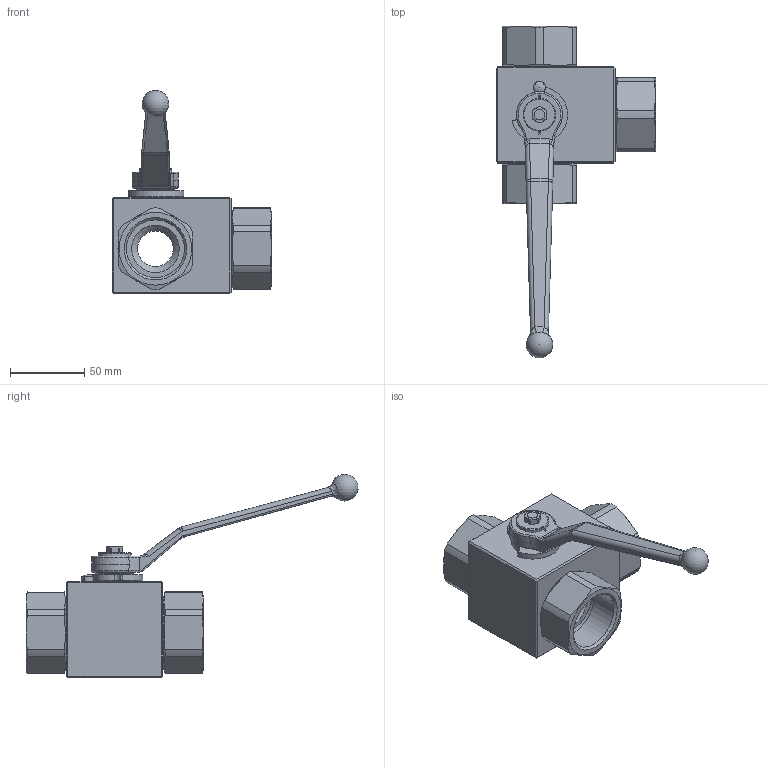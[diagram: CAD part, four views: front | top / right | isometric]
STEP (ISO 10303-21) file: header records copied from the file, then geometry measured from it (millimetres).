
FILE_DESCRIPTION( ( 'Unknown' ), '1' );
FILE_NAME( 'H:/PISTER/3D-MODELLE/BK3-Edelstahl stp/BK3-Edelst DN25 G5_4.stp', 'Unknown', ( 'Unknown' ), ( 'Unknown' ), 'PSStep 14.0', 'Unknown', ' ' );
FILE_SCHEMA( ( 'AUTOMOTIVE_DESIGN { 1 0 10303 214 1 1 1 1 }' ) );
Length unit declared in the file: millimetre
Products named in the file (12): Assem1; 58-28740-10-oa0; 10-025-001-oa2; 56-032-125-oa6; 06-025-009-oa8; 58-0440-007; 58-0933-248; Griff_SW14; 04-025-043-oa9; 04-025-043-oa10; 04-025-043-oa11; 01-025-084-oa12
Assembly tree (11 placements, depth 2):
  Assem1
    58-28740-10-oa0
    10-025-001-oa2
    56-032-125-oa6
    06-025-009-oa8
    58-0440-007
    58-0933-248
    Griff_SW14
    04-025-043-oa9
    04-025-043-oa10
    04-025-043-oa11
    01-025-084-oa12
Bounding box: 107.25 x 223.68 x 136.9 mm (x, y, z)
Volume: 322545.3 mm3; surface area: 89572.2 mm2
Topology: 11 solids, 11 shells, 342 faces, 869 edges, 552 vertices
Faces by surface type: plane 134, cylinder 108, torus 35, bspline 32, cone 30, sphere 3
Full cylindrical faces by diameter (mm): 5 x1, 6 x1, 6.6 x1, 7.98 x1, 20 x2, 20.2 x1, 22 x1, 24 x4, 25 x1, 32 x1, 38.952 x6, 39.3 x1, 41.376 x1, 41.5 x1, 43 x1, 43.3 x1, 45 x3, 48 x3, 50.5 x3
Entity records: 15014 total; most frequent: CARTESIAN_POINT 4630, ORIENTED_EDGE 1512, DIRECTION 1485, EDGE_CURVE 756, AXIS2_PLACEMENT_3D 605, VERTEX_POINT 515, EDGE_LOOP 441, FACE_OUTER_BOUND 384
